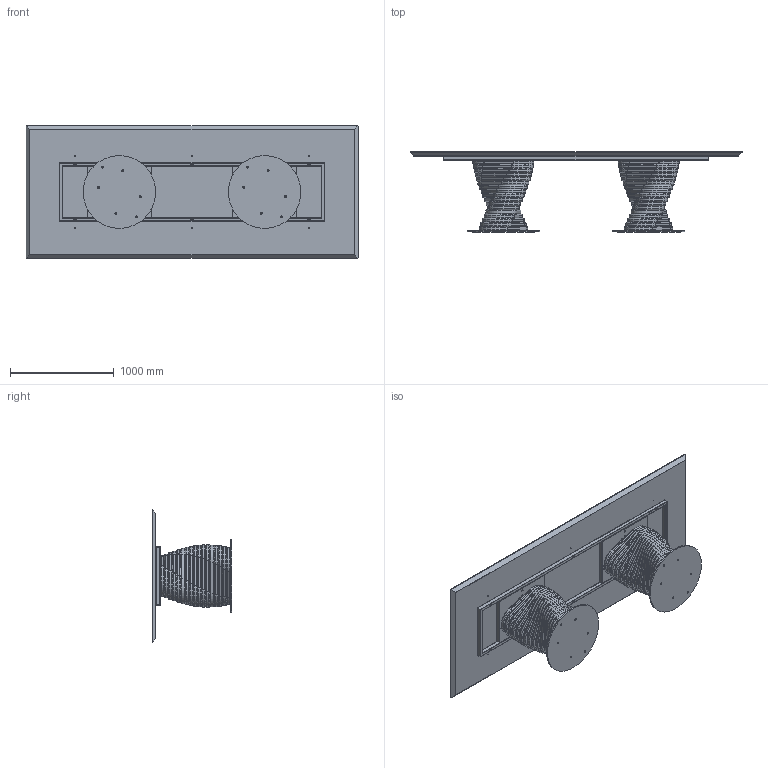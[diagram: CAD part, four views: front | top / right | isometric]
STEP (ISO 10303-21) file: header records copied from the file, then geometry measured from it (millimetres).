
FILE_DESCRIPTION (( 'STEP AP203' ), '1' );
FILE_NAME ('RO278W.STEP', '2024-08-07T13:20:12', ( '' ), ( '' ), 'SwSTEP 2.0', 'SolidWorks 2022', '' );
FILE_SCHEMA (( 'CONFIG_CONTROL_DESIGN' ));
Length unit declared in the file: millimetre
Products named in the file (15): W2XCMXX-00-Piani Rettangolari in legno_3200 x 1280; M8xXXmm_hex_M8X20mm; ROBX00000-00-ROTOLO BASE 17 ANELLI; TTAV03_02-06-VASSOIO IRRIGIDIMENTO TELAIO UNIVERSALE RETTANGOLARE; rondella M8_8X24; M8xXXmm_M8x55mm; TTAV03_01-06-RING TUBO TELAIO UNIVERSALE X TAVOLI 300-340cm; ROBX00000SUP-00-Anello rotolo SUPERIORE_Default<A macchina>; ROB200000-00-PIASTRA BASE_Ø70cm; M8xXXmm_M8x20mm; ROBX00000MED-00-Anello rotolo MEDIO_Default<A macchina>; RO278W; ROBX00000INF-00-Anello rotolo INFERIORE_Default<A macchina>; COLLO TELAIO UNIVERSALE TTAV03 CON FERRAMENTA_MTG TOP LEGNO-MARMO-KING; TTAV03-06-TELAIO UNIVERSALE X TAVOLI 300-340cm
Assembly tree (67 placements, depth 4):
  RO278W
    ROB200000-00-PIASTRA BASE_Ø70cm  x2
    COLLO TELAIO UNIVERSALE TTAV03 CON FERRAMENTA_MTG TOP LEGNO-MARMO-KING
      TTAV03-06-TELAIO UNIVERSALE X TAVOLI 300-340cm
        TTAV03_01-06-RING TUBO TELAIO UNIVERSALE X TAVOLI 300-340cm
        TTAV03_02-06-VASSOIO IRRIGIDIMENTO TELAIO UNIVERSALE RETTANGOLARE  x2
      rondella M8_8X24  x6
      M8xXXmm_M8x55mm  x6
    ROBX00000-00-ROTOLO BASE 17 ANELLI  x2
      ROBX00000INF-00-Anello rotolo INFERIORE_Default<A macchina>
      ROBX00000MED-00-Anello rotolo MEDIO_Default<A macchina>
      ROBX00000SUP-00-Anello rotolo SUPERIORE_Default<A macchina>
    M8xXXmm_hex_M8X20mm  x12
    rondella M8_8X24  x8
    M8xXXmm_M8x20mm  x8
    W2XCMXX-00-Piani Rettangolari in legno_3200 x 1280
Bounding box: 3200 x 770 x 1280 mm (x, y, z)
Volume: 173850910.7 mm3; surface area: 22902907 mm2
Topology: 182 solids, 182 shells, 3072 faces, 7232 edges, 4460 vertices
Faces by surface type: plane 1238, cylinder 1040, torus 464, cone 322, sphere 8
Entity records: 23351 total; most frequent: CARTESIAN_POINT 5128, DIRECTION 3336, ORIENTED_EDGE 3028, EDGE_CURVE 1514, AXIS2_PLACEMENT_3D 1261, VERTEX_POINT 943, LINE 814, VECTOR 814
